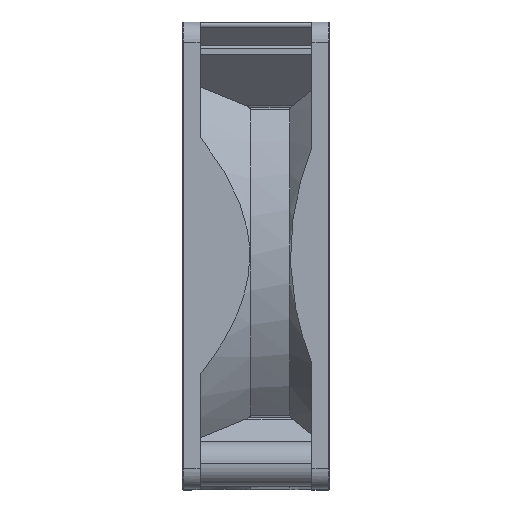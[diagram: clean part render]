
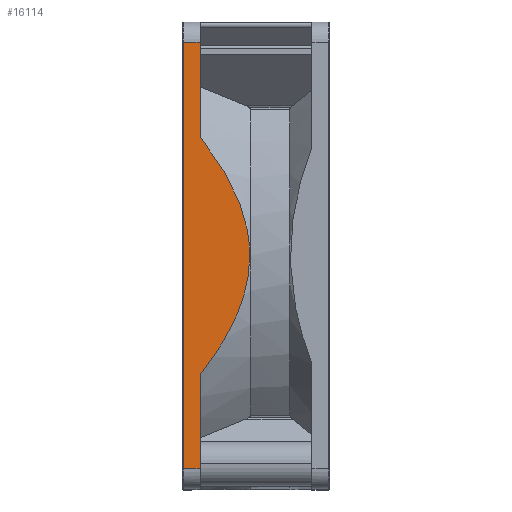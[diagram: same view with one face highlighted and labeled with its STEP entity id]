
A CAD part, top view. The second image highlights one B-rep face of the part: STEP entity #16114.
In plain terms, the highlighted planar face has unit normal (0, 0, 1).
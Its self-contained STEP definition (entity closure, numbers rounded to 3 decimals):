
#181 = DIRECTION ( 'NONE',  ( -1., 0., 0. ) ) ;
#387 = CARTESIAN_POINT ( 'NONE',  ( 11.526, 0., 40.1 ) ) ;
#698 = ORIENTED_EDGE ( 'NONE', *, *, #4514, .F. ) ;
#754 = VECTOR ( 'NONE', #181, 1000. ) ;
#889 = CARTESIAN_POINT ( 'NONE',  ( 11.453, -1.894, 40.1 ) ) ;
#950 = CARTESIAN_POINT ( 'NONE',  ( 4.168, -18.941, 40.1 ) ) ;
#968 = CARTESIAN_POINT ( 'NONE',  ( 5.271, 17.418, 40.1 ) ) ;
#1191 = VERTEX_POINT ( 'NONE', #14240 ) ;
#1328 = CARTESIAN_POINT ( 'NONE',  ( 11.526, 0., 40.1 ) ) ;
#2311 = CARTESIAN_POINT ( 'NONE',  ( 11.238, -3.766, 40.1 ) ) ;
#2342 = CARTESIAN_POINT ( 'NONE',  ( 3., 20.42, 40.1 ) ) ;
#2398 = CARTESIAN_POINT ( 'NONE',  ( 8.195, 12.645, 40.1 ) ) ;
#2532 = ORIENTED_EDGE ( 'NONE', *, *, #8799, .F. ) ;
#2535 = VERTEX_POINT ( 'NONE', #7647 ) ;
#2781 = ORIENTED_EDGE ( 'NONE', *, *, #3769, .F. ) ;
#3636 = CARTESIAN_POINT ( 'NONE',  ( 0.2, 36.6, 40.1 ) ) ;
#3735 = CARTESIAN_POINT ( 'NONE',  ( 10.63, -6.511, 40.1 ) ) ;
#3769 = EDGE_CURVE ( 'NONE', #2535, #17583, #15809, .T. ) ;
#3819 = CARTESIAN_POINT ( 'NONE',  ( 9.719, 9.226, 40.1 ) ) ;
#4340 = AXIS2_PLACEMENT_3D ( 'NONE', #16592, #8117, #17995 ) ;
#4403 = VERTEX_POINT ( 'NONE', #3636 ) ;
#4514 = EDGE_CURVE ( 'NONE', #8867, #4403, #10038, .T. ) ;
#4570 = VERTEX_POINT ( 'NONE', #1328 ) ;
#4735 = LINE ( 'NONE', #17305, #15559 ) ;
#4801 = LINE ( 'NONE', #7597, #12360 ) ;
#4830 = EDGE_CURVE ( 'NONE', #17583, #8867, #15368, .T. ) ;
#5159 = CARTESIAN_POINT ( 'NONE',  ( 9.889, -8.749, 40.1 ) ) ;
#5250 = CARTESIAN_POINT ( 'NONE',  ( 10.626, 6.525, 40.1 ) ) ;
#5538 = EDGE_CURVE ( 'NONE', #11863, #1191, #4735, .T. ) ;
#6573 = CARTESIAN_POINT ( 'NONE',  ( 9.364, -10.069, 40.1 ) ) ;
#6654 = CARTESIAN_POINT ( 'NONE',  ( 11.526, 1.898, 40.1 ) ) ;
#6655 = DIRECTION ( 'NONE',  ( 0., 1., 0. ) ) ;
#6882 = EDGE_CURVE ( 'NONE', #1191, #4570, #10244, .T. ) ;
#7284 = DIRECTION ( 'NONE',  ( 0., -1., 0. ) ) ;
#7371 = VECTOR ( 'NONE', #7284, 1000. ) ;
#7521 = ORIENTED_EDGE ( 'NONE', *, *, #7899, .F. ) ;
#7597 = CARTESIAN_POINT ( 'NONE',  ( -0.009, 36.6, 40.1 ) ) ;
#7618 = ORIENTED_EDGE ( 'NONE', *, *, #5538, .F. ) ;
#7647 = CARTESIAN_POINT ( 'NONE',  ( 3., -20.42, 40.1 ) ) ;
#7658 = FACE_OUTER_BOUND ( 'NONE', #9782, .T. ) ;
#7899 = EDGE_CURVE ( 'NONE', #4570, #2535, #11749, .T. ) ;
#7993 = CARTESIAN_POINT ( 'NONE',  ( 8.199, -12.638, 40.1 ) ) ;
#8117 = DIRECTION ( 'NONE',  ( 0., 0., -1. ) ) ;
#8664 = CARTESIAN_POINT ( 'NONE',  ( 25.2, -36.6, 40.1 ) ) ;
#8799 = EDGE_CURVE ( 'NONE', #4403, #11863, #4801, .T. ) ;
#8867 = VERTEX_POINT ( 'NONE', #13398 ) ;
#8869 = CARTESIAN_POINT ( 'NONE',  ( 11.526, -0.472, 40.1 ) ) ;
#9040 = DIRECTION ( 'NONE',  ( 1., 0., 0. ) ) ;
#9365 = CARTESIAN_POINT ( 'NONE',  ( 11.511, -0.948, 40.1 ) ) ;
#9432 = CARTESIAN_POINT ( 'NONE',  ( 5.269, -17.42, 40.1 ) ) ;
#9782 = EDGE_LOOP ( 'NONE', ( #698, #16987, #2781, #7521, #17010, #7618, #2532 ) ) ;
#10038 = LINE ( 'NONE', #16562, #14732 ) ;
#10244 = B_SPLINE_CURVE_WITH_KNOTS ( 'NONE', 3,
 ( #2342, #16504, #968, #10892, #2398, #12323, #3819, #13751, #5250, #15150, #6654, #16561 ),
 .UNSPECIFIED., .F., .F.,
 ( 4, 2, 2, 2, 2, 4 ),
 ( 0., 0.006, 0.011, 0.014, 0.017, 0.022 ),
 .UNSPECIFIED. ) ;
#10273 = DIRECTION ( 'NONE',  ( 0., -1., 0. ) ) ;
#10814 = CARTESIAN_POINT ( 'NONE',  ( 11.41, -2.364, 40.1 ) ) ;
#10863 = CARTESIAN_POINT ( 'NONE',  ( 3., -20.42, 40.1 ) ) ;
#10892 = CARTESIAN_POINT ( 'NONE',  ( 7.283, 14.271, 40.1 ) ) ;
#11749 = B_SPLINE_CURVE_WITH_KNOTS ( 'NONE', 3,
 ( #387, #8869, #9365, #889, #10814, #2311, #12245, #3735, #13671, #5159, #15079, #6573, #16478, #7993, #17886, #9432, #950, #10863 ),
 .UNSPECIFIED., .F., .F.,
 ( 4, 2, 2, 2, 2, 2, 2, 2, 4 ),
 ( 0.022, 0.024, 0.025, 0.028, 0.031, 0.032, 0.034, 0.039, 0.045 ),
 .UNSPECIFIED. ) ;
#11863 = VERTEX_POINT ( 'NONE', #14784 ) ;
#12245 = CARTESIAN_POINT ( 'NONE',  ( 11.068, -4.688, 40.1 ) ) ;
#12323 = CARTESIAN_POINT ( 'NONE',  ( 9.363, 10.095, 40.1 ) ) ;
#12360 = VECTOR ( 'NONE', #9040, 1000. ) ;
#13398 = CARTESIAN_POINT ( 'NONE',  ( 0.2, -36.6, 40.1 ) ) ;
#13671 = CARTESIAN_POINT ( 'NONE',  ( 10.36, -7.412, 40.1 ) ) ;
#13751 = CARTESIAN_POINT ( 'NONE',  ( 10.351, 7.443, 40.1 ) ) ;
#13782 = PLANE ( 'NONE',  #4340 ) ;
#14240 = CARTESIAN_POINT ( 'NONE',  ( 3., 20.42, 40.1 ) ) ;
#14452 = CARTESIAN_POINT ( 'NONE',  ( 3., -36.6, 40.1 ) ) ;
#14732 = VECTOR ( 'NONE', #6655, 1000. ) ;
#14784 = CARTESIAN_POINT ( 'NONE',  ( 3., 36.6, 40.1 ) ) ;
#15079 = CARTESIAN_POINT ( 'NONE',  ( 9.72, -9.193, 40.1 ) ) ;
#15150 = CARTESIAN_POINT ( 'NONE',  ( 11.291, 3.766, 40.1 ) ) ;
#15368 = LINE ( 'NONE', #8664, #754 ) ;
#15559 = VECTOR ( 'NONE', #10273, 1000. ) ;
#15809 = LINE ( 'NONE', #18256, #7371 ) ;
#16114 = ADVANCED_FACE ( 'NONE', ( #7658 ), #13782, .F. ) ;
#16478 = CARTESIAN_POINT ( 'NONE',  ( 9.177, -10.501, 40.1 ) ) ;
#16504 = CARTESIAN_POINT ( 'NONE',  ( 4.17, 18.939, 40.1 ) ) ;
#16561 = CARTESIAN_POINT ( 'NONE',  ( 11.526, 0., 40.1 ) ) ;
#16562 = CARTESIAN_POINT ( 'NONE',  ( 0.2, -36.6, 40.1 ) ) ;
#16592 = CARTESIAN_POINT ( 'NONE',  ( -0.009, -40.108, 40.1 ) ) ;
#16987 = ORIENTED_EDGE ( 'NONE', *, *, #4830, .F. ) ;
#17010 = ORIENTED_EDGE ( 'NONE', *, *, #6882, .F. ) ;
#17305 = CARTESIAN_POINT ( 'NONE',  ( 3., 130., 40.1 ) ) ;
#17583 = VERTEX_POINT ( 'NONE', #14452 ) ;
#17886 = CARTESIAN_POINT ( 'NONE',  ( 7.284, -14.269, 40.1 ) ) ;
#17995 = DIRECTION ( 'NONE',  ( -1., 0., 0. ) ) ;
#18256 = CARTESIAN_POINT ( 'NONE',  ( 3., 130., 40.1 ) ) ;
